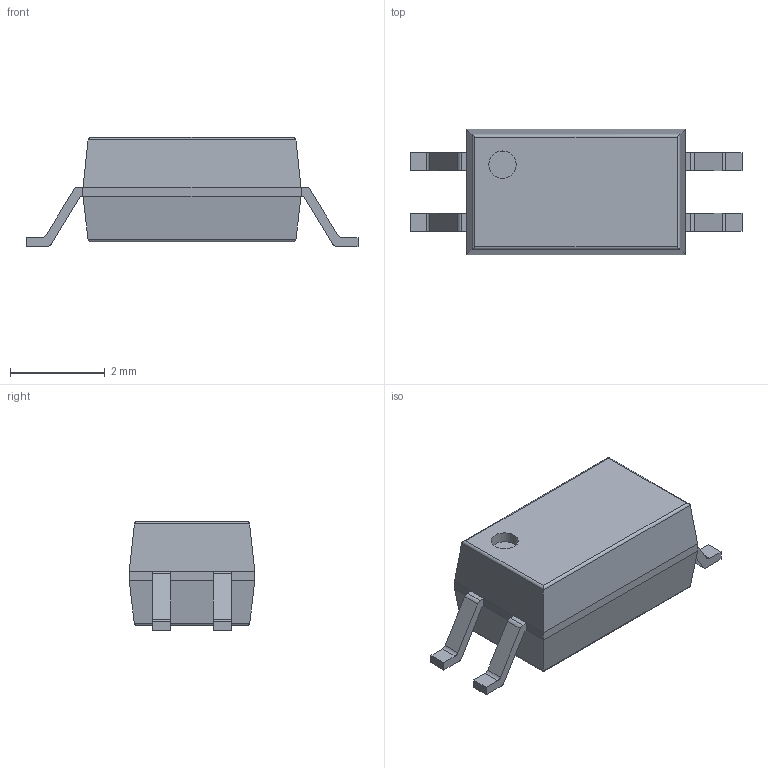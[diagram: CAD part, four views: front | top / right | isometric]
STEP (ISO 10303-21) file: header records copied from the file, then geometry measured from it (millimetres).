
FILE_DESCRIPTION(('FreeCAD Model'),'2;1');
FILE_NAME('/var/www/3D/0T/848707.1.1.stp','2020-09-16T19:17:10',( 'Author'),(''),'Open CASCADE STEP processor 6.9','FreeCAD','Unknown' );
FILE_SCHEMA(('AUTOMOTIVE_DESIGN { 1 0 10303 214 1 1 1 1 }'));
Length unit declared in the file: millimetre
Products named in the file (3): ASSEMBLY; Body; PinsArrayLR
Assembly tree (2 placements, depth 2):
  ASSEMBLY
    Body
    PinsArrayLR
Bounding box: 7 x 2.65 x 2.3 mm (x, y, z)
Volume: 25.6 mm3; surface area: 60.9 mm2
Topology: 5 solids, 5 shells, 76 faces, 179 edges, 114 vertices
Faces by surface type: plane 55, cylinder 21
Full cylindrical faces by diameter (mm): 0.575 x1
Entity records: 4683 total; most frequent: CARTESIAN_POINT 942, DIRECTION 689, LINE 449, VECTOR 449, ORIENTED_EDGE 358, PCURVE 358, DEFINITIONAL_REPRESENTATION 358, EDGE_CURVE 179
